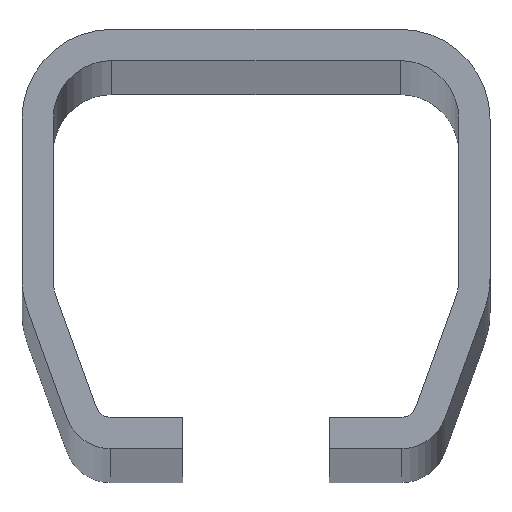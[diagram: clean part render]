
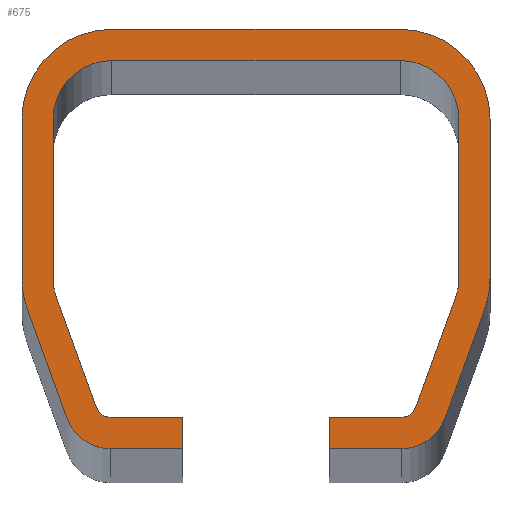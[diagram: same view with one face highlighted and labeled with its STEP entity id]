
A CAD part, top view. The second image highlights one B-rep face of the part: STEP entity #675.
In plain terms, the highlighted planar face has unit normal (0, 0, 1).
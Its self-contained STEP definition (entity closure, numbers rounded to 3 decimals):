
#16=CIRCLE('',#691,4.7);
#18=CIRCLE('',#695,9.2);
#20=CIRCLE('',#699,9.2);
#22=CIRCLE('',#703,9.2);
#24=CIRCLE('',#707,9.2);
#26=CIRCLE('',#711,4.7);
#28=CIRCLE('',#717,1.5);
#30=CIRCLE('',#721,6.);
#32=CIRCLE('',#725,6.);
#34=CIRCLE('',#729,6.);
#36=CIRCLE('',#733,6.);
#38=CIRCLE('',#737,1.5);
#85=FACE_OUTER_BOUND('',#121,.T.);
#121=EDGE_LOOP('',(#563,#564,#565,#566,#567,#568,#569,#570,#571,#572,#573,
#574,#575,#576,#577,#578,#579,#580,#581,#582,#583,#584,#585,#586,#587,#588,
#589,#590));
#137=LINE('',#973,#209);
#141=LINE('',#985,#213);
#145=LINE('',#997,#217);
#149=LINE('',#1009,#221);
#153=LINE('',#1021,#225);
#157=LINE('',#1033,#229);
#160=LINE('',#1039,#232);
#163=LINE('',#1045,#235);
#167=LINE('',#1057,#239);
#171=LINE('',#1069,#243);
#175=LINE('',#1081,#247);
#179=LINE('',#1093,#251);
#183=LINE('',#1105,#255);
#187=LINE('',#1117,#259);
#190=LINE('',#1123,#262);
#193=LINE('',#1128,#265);
#209=VECTOR('',#778,10.);
#213=VECTOR('',#790,10.);
#217=VECTOR('',#802,10.);
#221=VECTOR('',#814,10.);
#225=VECTOR('',#826,10.);
#229=VECTOR('',#838,10.);
#232=VECTOR('',#843,10.);
#235=VECTOR('',#848,10.);
#239=VECTOR('',#860,10.);
#243=VECTOR('',#872,10.);
#247=VECTOR('',#884,10.);
#251=VECTOR('',#896,10.);
#255=VECTOR('',#908,10.);
#259=VECTOR('',#920,10.);
#262=VECTOR('',#925,10.);
#265=VECTOR('',#930,10.);
#275=VERTEX_POINT('',#963);
#276=VERTEX_POINT('',#964);
#279=VERTEX_POINT('',#972);
#281=VERTEX_POINT('',#978);
#283=VERTEX_POINT('',#984);
#285=VERTEX_POINT('',#990);
#287=VERTEX_POINT('',#996);
#289=VERTEX_POINT('',#1002);
#291=VERTEX_POINT('',#1008);
#293=VERTEX_POINT('',#1014);
#295=VERTEX_POINT('',#1020);
#297=VERTEX_POINT('',#1026);
#299=VERTEX_POINT('',#1032);
#301=VERTEX_POINT('',#1038);
#303=VERTEX_POINT('',#1044);
#305=VERTEX_POINT('',#1050);
#307=VERTEX_POINT('',#1056);
#309=VERTEX_POINT('',#1062);
#311=VERTEX_POINT('',#1068);
#313=VERTEX_POINT('',#1074);
#315=VERTEX_POINT('',#1080);
#317=VERTEX_POINT('',#1086);
#319=VERTEX_POINT('',#1092);
#321=VERTEX_POINT('',#1098);
#323=VERTEX_POINT('',#1104);
#325=VERTEX_POINT('',#1110);
#327=VERTEX_POINT('',#1116);
#329=VERTEX_POINT('',#1122);
#343=EDGE_CURVE('',#275,#276,#16,.T.);
#347=EDGE_CURVE('',#276,#279,#137,.T.);
#350=EDGE_CURVE('',#279,#281,#18,.T.);
#353=EDGE_CURVE('',#281,#283,#141,.T.);
#356=EDGE_CURVE('',#283,#285,#20,.T.);
#359=EDGE_CURVE('',#285,#287,#145,.T.);
#362=EDGE_CURVE('',#287,#289,#22,.T.);
#365=EDGE_CURVE('',#289,#291,#149,.T.);
#368=EDGE_CURVE('',#291,#293,#24,.T.);
#371=EDGE_CURVE('',#293,#295,#153,.T.);
#374=EDGE_CURVE('',#295,#297,#26,.T.);
#377=EDGE_CURVE('',#297,#299,#157,.T.);
#380=EDGE_CURVE('',#299,#301,#160,.T.);
#383=EDGE_CURVE('',#301,#303,#163,.T.);
#386=EDGE_CURVE('',#303,#305,#28,.T.);
#389=EDGE_CURVE('',#305,#307,#167,.T.);
#392=EDGE_CURVE('',#307,#309,#30,.T.);
#395=EDGE_CURVE('',#309,#311,#171,.T.);
#398=EDGE_CURVE('',#311,#313,#32,.T.);
#401=EDGE_CURVE('',#313,#315,#175,.T.);
#404=EDGE_CURVE('',#315,#317,#34,.T.);
#407=EDGE_CURVE('',#317,#319,#179,.T.);
#410=EDGE_CURVE('',#319,#321,#36,.T.);
#413=EDGE_CURVE('',#321,#323,#183,.T.);
#416=EDGE_CURVE('',#323,#325,#38,.T.);
#419=EDGE_CURVE('',#325,#327,#187,.T.);
#422=EDGE_CURVE('',#327,#329,#190,.T.);
#425=EDGE_CURVE('',#329,#275,#193,.T.);
#563=ORIENTED_EDGE('',*,*,#343,.F.);
#564=ORIENTED_EDGE('',*,*,#425,.F.);
#565=ORIENTED_EDGE('',*,*,#422,.F.);
#566=ORIENTED_EDGE('',*,*,#419,.F.);
#567=ORIENTED_EDGE('',*,*,#416,.F.);
#568=ORIENTED_EDGE('',*,*,#413,.F.);
#569=ORIENTED_EDGE('',*,*,#410,.F.);
#570=ORIENTED_EDGE('',*,*,#407,.F.);
#571=ORIENTED_EDGE('',*,*,#404,.F.);
#572=ORIENTED_EDGE('',*,*,#401,.F.);
#573=ORIENTED_EDGE('',*,*,#398,.F.);
#574=ORIENTED_EDGE('',*,*,#395,.F.);
#575=ORIENTED_EDGE('',*,*,#392,.F.);
#576=ORIENTED_EDGE('',*,*,#389,.F.);
#577=ORIENTED_EDGE('',*,*,#386,.F.);
#578=ORIENTED_EDGE('',*,*,#383,.F.);
#579=ORIENTED_EDGE('',*,*,#380,.F.);
#580=ORIENTED_EDGE('',*,*,#377,.F.);
#581=ORIENTED_EDGE('',*,*,#374,.F.);
#582=ORIENTED_EDGE('',*,*,#371,.F.);
#583=ORIENTED_EDGE('',*,*,#368,.F.);
#584=ORIENTED_EDGE('',*,*,#365,.F.);
#585=ORIENTED_EDGE('',*,*,#362,.F.);
#586=ORIENTED_EDGE('',*,*,#359,.F.);
#587=ORIENTED_EDGE('',*,*,#356,.F.);
#588=ORIENTED_EDGE('',*,*,#353,.F.);
#589=ORIENTED_EDGE('',*,*,#350,.F.);
#590=ORIENTED_EDGE('',*,*,#347,.F.);
#640=PLANE('',#742);
#675=ADVANCED_FACE('',(#85),#640,.T.);
#691=AXIS2_PLACEMENT_3D('',#965,#770,#771);
#695=AXIS2_PLACEMENT_3D('',#979,#783,#784);
#699=AXIS2_PLACEMENT_3D('',#991,#795,#796);
#703=AXIS2_PLACEMENT_3D('',#1003,#807,#808);
#707=AXIS2_PLACEMENT_3D('',#1015,#819,#820);
#711=AXIS2_PLACEMENT_3D('',#1027,#831,#832);
#717=AXIS2_PLACEMENT_3D('',#1051,#853,#854);
#721=AXIS2_PLACEMENT_3D('',#1063,#865,#866);
#725=AXIS2_PLACEMENT_3D('',#1075,#877,#878);
#729=AXIS2_PLACEMENT_3D('',#1087,#889,#890);
#733=AXIS2_PLACEMENT_3D('',#1099,#901,#902);
#737=AXIS2_PLACEMENT_3D('',#1111,#913,#914);
#742=AXIS2_PLACEMENT_3D('',#1130,#932,#933);
#770=DIRECTION('center_axis',(0.,0.,-1.));
#771=DIRECTION('ref_axis',(0.94,0.342,0.));
#778=DIRECTION('',(-0.342,0.94,0.));
#783=DIRECTION('center_axis',(0.,0.,-1.));
#784=DIRECTION('ref_axis',(1.,0.,0.));
#790=DIRECTION('',(0.,1.,0.));
#795=DIRECTION('center_axis',(0.,0.,-1.));
#796=DIRECTION('ref_axis',(0.,-1.,0.));
#802=DIRECTION('',(1.,0.,0.));
#807=DIRECTION('center_axis',(0.,0.,-1.));
#808=DIRECTION('ref_axis',(-1.,0.,0.));
#814=DIRECTION('',(0.,-1.,0.));
#819=DIRECTION('center_axis',(0.,0.,-1.));
#820=DIRECTION('ref_axis',(-0.94,0.342,0.));
#826=DIRECTION('',(-0.342,-0.94,0.));
#831=DIRECTION('center_axis',(0.,0.,-1.));
#832=DIRECTION('ref_axis',(0.,1.,0.));
#838=DIRECTION('',(-1.,0.,0.));
#843=DIRECTION('',(0.,1.,0.));
#848=DIRECTION('',(1.,0.,0.));
#853=DIRECTION('center_axis',(0.,0.,1.));
#854=DIRECTION('ref_axis',(0.,-1.,0.));
#860=DIRECTION('',(0.342,0.94,0.));
#865=DIRECTION('center_axis',(0.,0.,1.));
#866=DIRECTION('ref_axis',(0.94,-0.342,0.));
#872=DIRECTION('',(0.,1.,0.));
#877=DIRECTION('center_axis',(0.,0.,1.));
#878=DIRECTION('ref_axis',(1.,0.,0.));
#884=DIRECTION('',(-1.,0.,0.));
#889=DIRECTION('center_axis',(0.,0.,1.));
#890=DIRECTION('ref_axis',(0.,1.,0.));
#896=DIRECTION('',(0.,-1.,0.));
#901=DIRECTION('center_axis',(0.,0.,1.));
#902=DIRECTION('ref_axis',(-1.,0.,0.));
#908=DIRECTION('',(0.342,-0.94,0.));
#913=DIRECTION('center_axis',(0.,0.,1.));
#914=DIRECTION('ref_axis',(-0.94,-0.342,0.));
#920=DIRECTION('',(1.,0.,0.));
#925=DIRECTION('',(0.,-1.,0.));
#930=DIRECTION('',(-1.,0.,0.));
#932=DIRECTION('center_axis',(0.,0.,1.));
#933=DIRECTION('ref_axis',(1.,0.,0.));
#963=CARTESIAN_POINT('',(-14.958,-3.2,2000.));
#964=CARTESIAN_POINT('',(-19.375,-0.107,2000.));
#965=CARTESIAN_POINT('Origin',(-14.958,1.5,2000.));
#972=CARTESIAN_POINT('',(-23.445,11.076,2000.));
#973=CARTESIAN_POINT('',(-19.375,-0.107,2000.));
#978=CARTESIAN_POINT('',(-24.,14.222,2000.));
#979=CARTESIAN_POINT('Origin',(-14.8,14.222,2000.));
#984=CARTESIAN_POINT('',(-24.,30.6,2000.));
#985=CARTESIAN_POINT('',(-24.,14.222,2000.));
#990=CARTESIAN_POINT('',(-14.8,39.8,2000.));
#991=CARTESIAN_POINT('Origin',(-14.8,30.6,2000.));
#996=CARTESIAN_POINT('',(14.8,39.8,2000.));
#997=CARTESIAN_POINT('',(-14.8,39.8,2000.));
#1002=CARTESIAN_POINT('',(24.,30.6,2000.));
#1003=CARTESIAN_POINT('Origin',(14.8,30.6,2000.));
#1008=CARTESIAN_POINT('',(24.,14.222,2000.));
#1009=CARTESIAN_POINT('',(24.,30.6,2000.));
#1014=CARTESIAN_POINT('',(23.445,11.076,2000.));
#1015=CARTESIAN_POINT('Origin',(14.8,14.222,2000.));
#1020=CARTESIAN_POINT('',(19.375,-0.107,2000.));
#1021=CARTESIAN_POINT('',(23.445,11.076,2000.));
#1026=CARTESIAN_POINT('',(14.958,-3.2,2000.));
#1027=CARTESIAN_POINT('Origin',(14.958,1.5,2000.));
#1032=CARTESIAN_POINT('',(7.5,-3.2,2000.));
#1033=CARTESIAN_POINT('',(14.958,-3.2,2000.));
#1038=CARTESIAN_POINT('',(7.5,0.,2000.));
#1039=CARTESIAN_POINT('',(7.5,-3.2,2000.));
#1044=CARTESIAN_POINT('',(14.958,0.,2000.));
#1045=CARTESIAN_POINT('',(7.5,0.,2000.));
#1050=CARTESIAN_POINT('',(16.368,0.987,2000.));
#1051=CARTESIAN_POINT('Origin',(14.958,1.5,2000.));
#1056=CARTESIAN_POINT('',(20.438,12.17,2000.));
#1057=CARTESIAN_POINT('',(16.368,0.987,2000.));
#1062=CARTESIAN_POINT('',(20.8,14.222,2000.));
#1063=CARTESIAN_POINT('Origin',(14.8,14.222,2000.));
#1068=CARTESIAN_POINT('',(20.8,30.6,2000.));
#1069=CARTESIAN_POINT('',(20.8,14.222,2000.));
#1074=CARTESIAN_POINT('',(14.8,36.6,2000.));
#1075=CARTESIAN_POINT('Origin',(14.8,30.6,2000.));
#1080=CARTESIAN_POINT('',(-14.8,36.6,2000.));
#1081=CARTESIAN_POINT('',(14.8,36.6,2000.));
#1086=CARTESIAN_POINT('',(-20.8,30.6,2000.));
#1087=CARTESIAN_POINT('Origin',(-14.8,30.6,2000.));
#1092=CARTESIAN_POINT('',(-20.8,14.222,2000.));
#1093=CARTESIAN_POINT('',(-20.8,30.6,2000.));
#1098=CARTESIAN_POINT('',(-20.438,12.17,2000.));
#1099=CARTESIAN_POINT('Origin',(-14.8,14.222,2000.));
#1104=CARTESIAN_POINT('',(-16.368,0.987,2000.));
#1105=CARTESIAN_POINT('',(-20.438,12.17,2000.));
#1110=CARTESIAN_POINT('',(-14.958,0.,2000.));
#1111=CARTESIAN_POINT('Origin',(-14.958,1.5,2000.));
#1116=CARTESIAN_POINT('',(-7.5,0.,2000.));
#1117=CARTESIAN_POINT('',(-14.958,0.,2000.));
#1122=CARTESIAN_POINT('',(-7.5,-3.2,2000.));
#1123=CARTESIAN_POINT('',(-7.5,0.,2000.));
#1128=CARTESIAN_POINT('',(-7.5,-3.2,2000.));
#1130=CARTESIAN_POINT('Origin',(0.,20.457,2000.));
